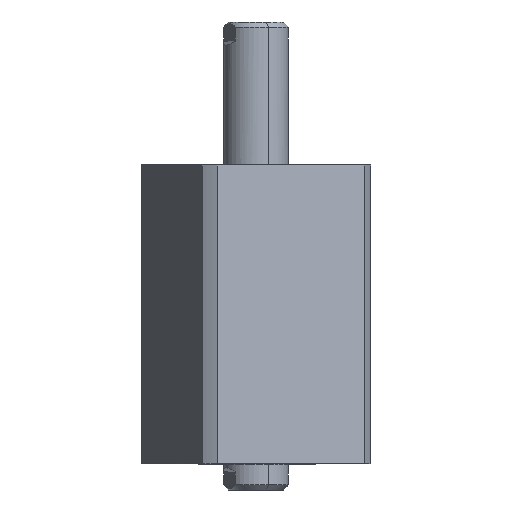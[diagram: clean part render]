
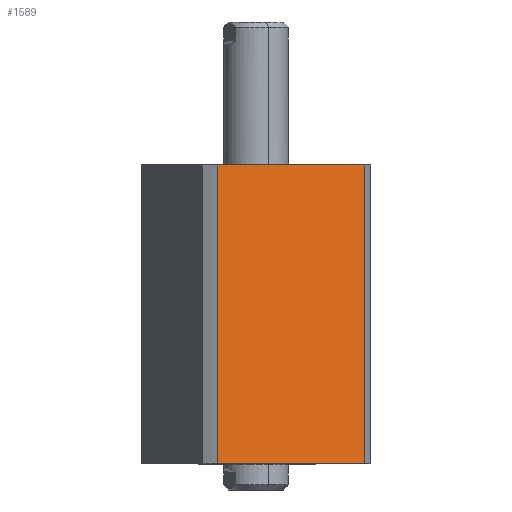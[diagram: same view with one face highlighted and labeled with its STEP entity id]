
A CAD part, front view. The second image highlights one B-rep face of the part: STEP entity #1589.
In plain terms, the highlighted planar face has unit normal (0.383, -0.924, 0) as drawn and (-1, 0, 0) by its records, which use the part's own axes.
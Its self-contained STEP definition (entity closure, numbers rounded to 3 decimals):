
#206 = ORIENTED_EDGE ( 'NONE', *, *, #6656, .F. ) ;
#275 = AXIS2_PLACEMENT_3D ( 'NONE', #5964, #5275, #5209 ) ;
#589 = VECTOR ( 'NONE', #1528, 1000. ) ;
#677 = DIRECTION ( 'NONE',  ( 0., 0., 1. ) ) ;
#727 = EDGE_CURVE ( 'NONE', #2125, #4772, #3178, .T. ) ;
#771 = CARTESIAN_POINT ( 'NONE',  ( -35., 35., 0. ) ) ;
#841 = CARTESIAN_POINT ( 'NONE',  ( -35., -30.615, 0. ) ) ;
#909 = EDGE_CURVE ( 'NONE', #1632, #4772, #1349, .T. ) ;
#1349 = LINE ( 'NONE', #771, #589 ) ;
#1528 = DIRECTION ( 'NONE',  ( 0., -1., 0. ) ) ;
#1589 = ADVANCED_FACE ( 'NONE', ( #2614 ), #5685, .F. ) ;
#1592 = VECTOR ( 'NONE', #677, 1000. ) ;
#1632 = VERTEX_POINT ( 'NONE', #4413 ) ;
#1673 = EDGE_CURVE ( 'NONE', #1632, #6274, #3793, .T. ) ;
#2125 = VERTEX_POINT ( 'NONE', #9878 ) ;
#2144 = ORIENTED_EDGE ( 'NONE', *, *, #727, .F. ) ;
#2257 = CARTESIAN_POINT ( 'NONE',  ( -35., -30.615, -185. ) ) ;
#2614 = FACE_OUTER_BOUND ( 'NONE', #7204, .T. ) ;
#2908 = VECTOR ( 'NONE', #3858, 1000. ) ;
#3178 = LINE ( 'NONE', #2257, #2908 ) ;
#3793 = LINE ( 'NONE', #4243, #1592 ) ;
#3858 = DIRECTION ( 'NONE',  ( 0., 0., -1. ) ) ;
#4091 = ORIENTED_EDGE ( 'NONE', *, *, #1673, .F. ) ;
#4243 = CARTESIAN_POINT ( 'NONE',  ( -35., 30.615, -185. ) ) ;
#4413 = CARTESIAN_POINT ( 'NONE',  ( -35., 30.615, 0. ) ) ;
#4429 = CARTESIAN_POINT ( 'NONE',  ( -35., 35., 115. ) ) ;
#4772 = VERTEX_POINT ( 'NONE', #841 ) ;
#5209 = DIRECTION ( 'NONE',  ( 0., 1., 0. ) ) ;
#5275 = DIRECTION ( 'NONE',  ( 1., 0., 0. ) ) ;
#5685 = PLANE ( 'NONE',  #275 ) ;
#5964 = CARTESIAN_POINT ( 'NONE',  ( -35., 35., 115. ) ) ;
#6014 = DIRECTION ( 'NONE',  ( 0., -1., 0. ) ) ;
#6048 = VECTOR ( 'NONE', #6014, 1000. ) ;
#6274 = VERTEX_POINT ( 'NONE', #6510 ) ;
#6510 = CARTESIAN_POINT ( 'NONE',  ( -35., 30.615, 115. ) ) ;
#6656 = EDGE_CURVE ( 'NONE', #6274, #2125, #10228, .T. ) ;
#7204 = EDGE_LOOP ( 'NONE', ( #4091, #10371, #2144, #206 ) ) ;
#9878 = CARTESIAN_POINT ( 'NONE',  ( -35., -30.615, 115. ) ) ;
#10228 = LINE ( 'NONE', #4429, #6048 ) ;
#10371 = ORIENTED_EDGE ( 'NONE', *, *, #909, .T. ) ;
